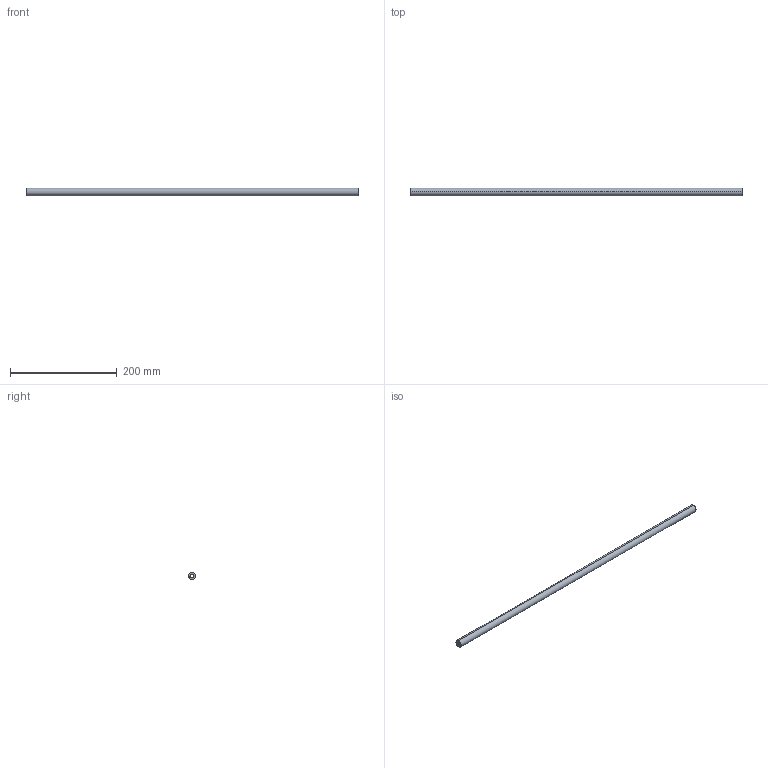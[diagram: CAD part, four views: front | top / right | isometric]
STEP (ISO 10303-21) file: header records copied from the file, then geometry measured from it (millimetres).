
FILE_DESCRIPTION (( 'STEP AP214' ), '1' );
FILE_NAME ('SyncronisationsstangeXP_KAB_750_16.step', '2009-11-24T08:53:24', ( 'Grass' ), ( 'Grass GmbH' ), 'SwSTEP 2.0', 'SolidWorks 2009', '' );
FILE_SCHEMA (( 'AUTOMOTIVE_DESIGN' ));
Length unit declared in the file: millimetre
Products named in the file (1): SyncronisationsstangeXP_KAB_750_16
Bounding box: 621 x 14 x 14 mm (x, y, z)
Volume: 67148.6 mm3; surface area: 43352.9 mm2
Topology: 1 solids, 1 shells, 15 faces, 39 edges, 26 vertices
Faces by surface type: cylinder 11, plane 4
Entity records: 513 total; most frequent: DIRECTION 93, CARTESIAN_POINT 81, ORIENTED_EDGE 78, EDGE_CURVE 39, AXIS2_PLACEMENT_3D 38, VERTEX_POINT 26, CIRCLE 22, VECTOR 17
